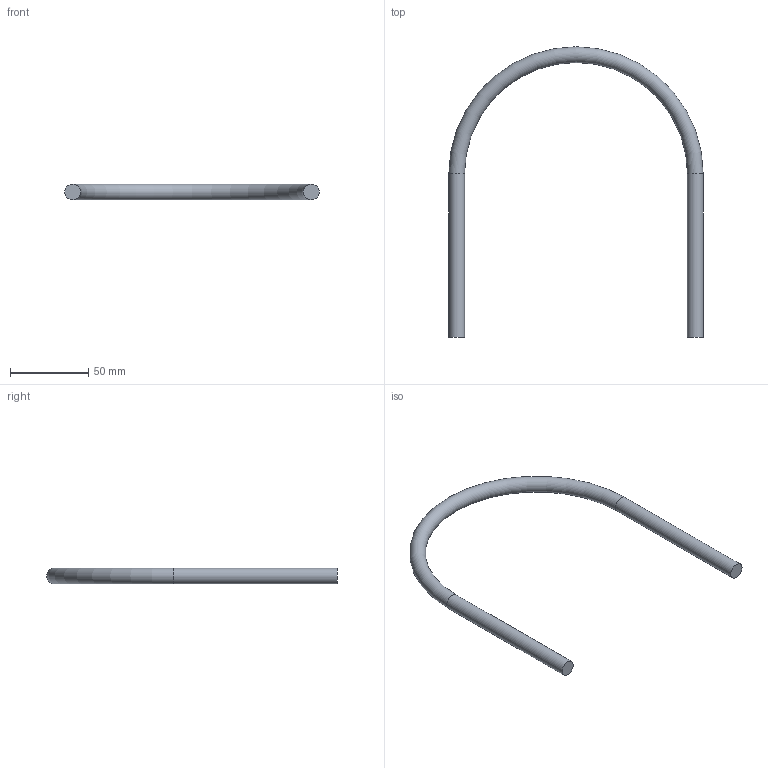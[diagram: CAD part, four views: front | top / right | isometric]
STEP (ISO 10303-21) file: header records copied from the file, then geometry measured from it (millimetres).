
FILE_DESCRIPTION(/* description */ (''),/* implementation_level */ '2;1');
FILE_NAME(/* name */ 'C:\Users\D\Documents\Inventor\各種小物\JIS\01-Uボルト2\一般配管用\125A\u-bolt-125a-m10.stp',/* time_stamp */ '2022-04-27T10:18:33+09:00',/* author */ ('D'),/* organization */ (''),/* preprocessor_version */ 'ST-DEVELOPER v18',/* originating_system */ 'Autodesk Inventor 2020',/* authorisation */ '');
FILE_SCHEMA (('AUTOMOTIVE_DESIGN { 1 0 10303 214 3 1 1 }'));
Length unit declared in the file: millimetre
Products named in the file (1): u-bolt-8a-m6
Bounding box: 162 x 185 x 10 mm (x, y, z)
Volume: 35088.5 mm3; surface area: 14192.5 mm2
Topology: 1 solids, 1 shells, 5 faces, 11 edges, 8 vertices
Faces by surface type: cylinder 2, plane 2, torus 1
Full cylindrical faces by diameter (mm): 10 x2
Entity records: 191 total; most frequent: DIRECTION 32, CARTESIAN_POINT 25, ORIENTED_EDGE 22, AXIS2_PLACEMENT_3D 15, EDGE_CURVE 11, CIRCLE 9, VERTEX_POINT 8, FACE_OUTER_BOUND 5
